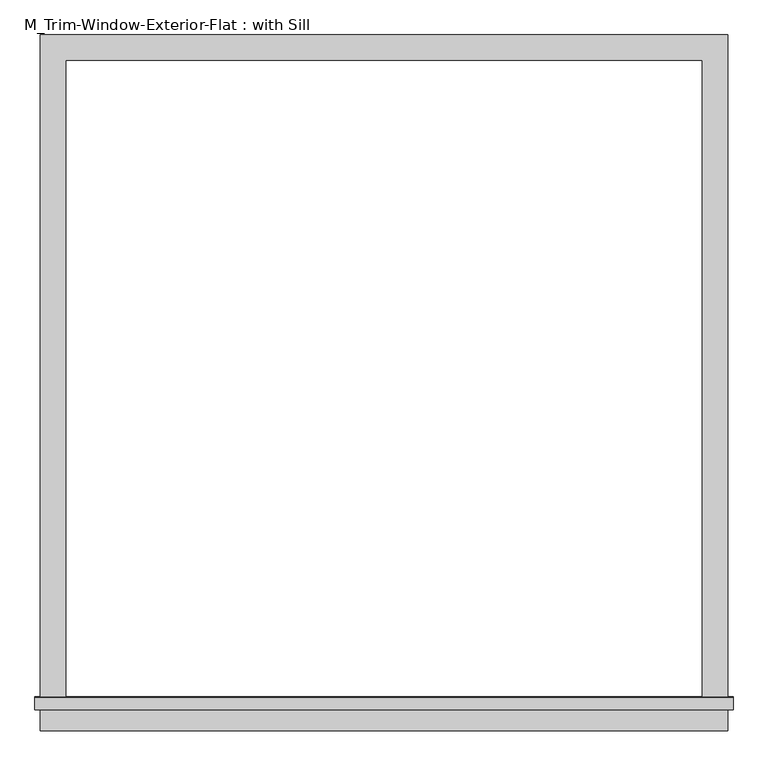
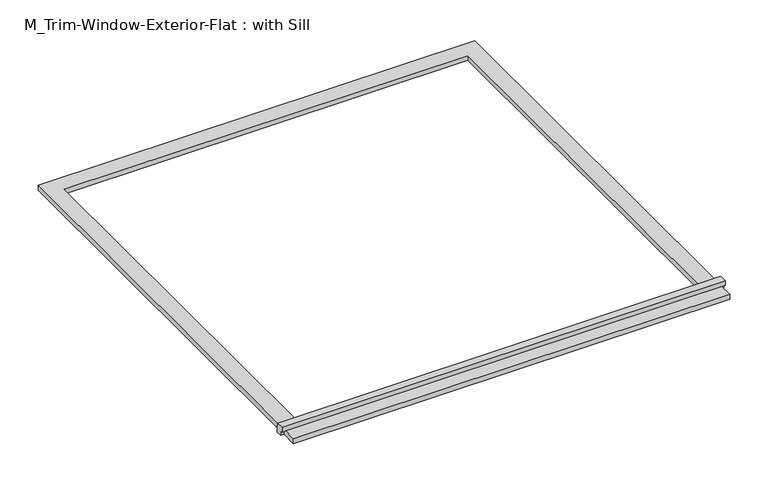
"""IFC4 building model written with IfcOpenShell, lengths in millimetres: proxy geometry, M_Trim-Window-Exterior-Flat : with Sill."""

from ifc_helpers import new_model, si_unit, frame, origin, origin_with_axes, place, context, project, spatial, polyline, outline, extrude, source, transform, mapped, element, save


def m_trim_window_exterior_flat_with_sill_22923e22(model_context):
    return source(origin(), model_context, "Body", "SweptSolid", [
        extrude(outline(polyline([(810.0, -1520.4323709), (810.0, -1580.4323709), (-810.0, -1580.4323709), (-810.0, -1520.4323709), (810.0, -1520.4323709)])), origin_with_axes(), (0.0, 0.0, 1.0), 19.05),
        extrude(outline(polyline([(-1530.0, 38.1), (-1502.4580645, 38.1), (-1500.0, 19.05), (-1500.0, 0.0), (-1520.4323709, 0.0), (-1520.4323709, 19.05), (-1530.0, 19.05), (-1530.0, 38.1)])), frame((-822.7, 0.0, 0.0), z_axis=(1.0, 0.0, 0.0), x_axis=(0.0, 1.0, 0.0)), (0.0, 0.0, 1.0), 1645.4),
        extrude(outline(polyline([(-810.0, 60.0), (810.0, 60.0), (810.0, -1500.0), (750.0, -1500.0), (750.0, 0.0), (-750.0, 0.0), (-750.0, -1500.0), (-810.0, -1500.0), (-810.0, 60.0)])), origin_with_axes(), (0.0, 0.0, 1.0), 19.05),
    ])


if __name__ == "__main__":
    model = new_model("IFC4")
    model_context = context("Model", 3, world=origin())
    ifc_project = project(units=[si_unit("LENGTHUNIT", "METRE", prefix="MILLI")], contexts=[model_context])
    site = spatial("IfcSite", under=ifc_project)
    building = spatial("IfcBuilding", under=site)
    placement = place(None, origin())
    m_trim_window_exterior_flat_with_sill_shape = m_trim_window_exterior_flat_with_sill_22923e22(model_context)
    element("IfcBuildingElementProxy", 1, Name="M_Trim-Window-Exterior-Flat : with Sill", ObjectType="M_Trim-Window-Exterior-Flat : with Sill", at=placement, inside=building, context=model_context, shape_type="MappedRepresentation", body=[
        mapped(m_trim_window_exterior_flat_with_sill_shape, transform((0.0, 0.0, 0.0), x_axis=(1.0, 0.0, 0.0), y_axis=(0.0, 1.0, 0.0), z_axis=(0.0, 0.0, 1.0))),
    ])
    save(model, "model.ifc")
